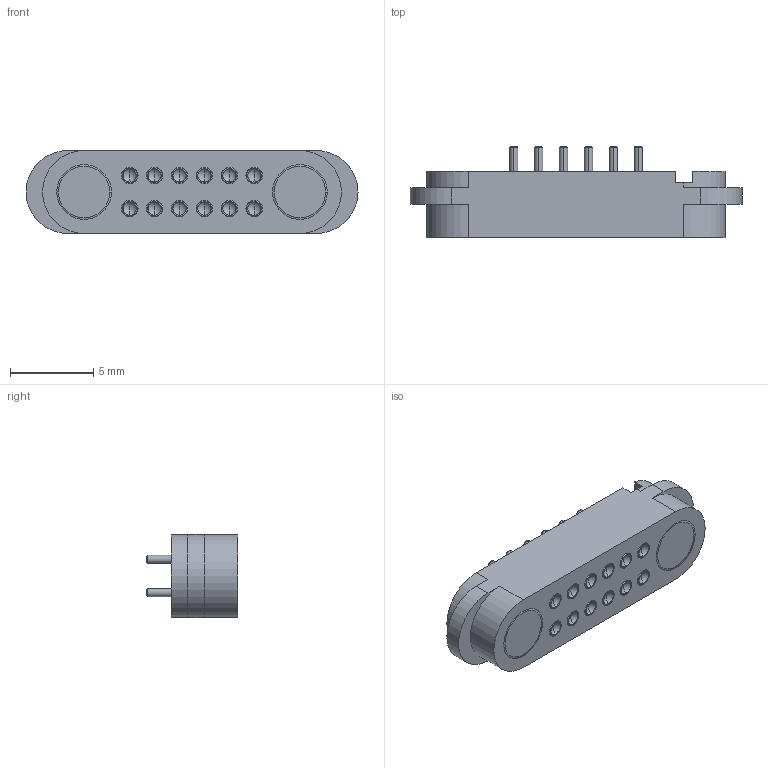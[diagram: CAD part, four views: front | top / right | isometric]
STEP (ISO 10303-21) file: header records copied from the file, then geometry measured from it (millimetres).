
FILE_DESCRIPTION((''),'2;1');
FILE_NAME('ASM0001_ASM','2026-07-06T17:56:25',('Administrator'),(''),'CREO PARAMETRIC BY PTC INC, 2023073','CREO PARAMETRIC BY PTC INC, 2023073','');
FILE_SCHEMA(('CONFIG_CONTROL_DESIGN'));
Length unit declared in the file: millimetre
Products named in the file (4): PRT0001; CT; PRT0003; ASM0001_ASM
Assembly tree (15 placements, depth 2):
  ASM0001_ASM
    PRT0001
    CT  x2
    PRT0003  x12
Bounding box: 20 x 5.51 x 5 mm (x, y, z)
Volume: 329 mm3; surface area: 856.4 mm2
Topology: 15 solids, 15 shells, 333 faces, 728 edges, 448 vertices
Faces by surface type: cylinder 142, cone 80, plane 79, sphere 24, torus 8
Entity records: 4142 total; most frequent: DIRECTION 800, CARTESIAN_POINT 671, ORIENTED_EDGE 632, AXIS2_PLACEMENT_3D 338, EDGE_CURVE 316, VERTEX_POINT 209, CIRCLE 192, EDGE_LOOP 169
